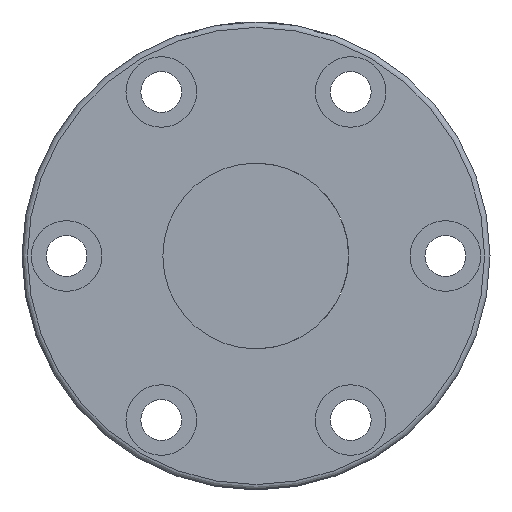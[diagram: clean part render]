
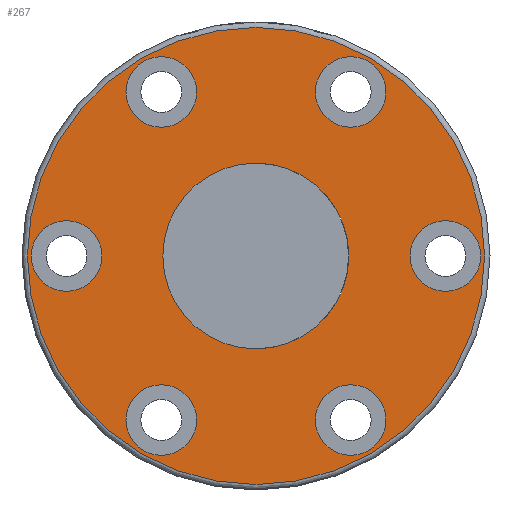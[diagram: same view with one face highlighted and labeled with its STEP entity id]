
A CAD part, front view. The second image highlights one B-rep face of the part: STEP entity #267.
In plain terms, the highlighted planar face has unit normal (0, -1, 0).
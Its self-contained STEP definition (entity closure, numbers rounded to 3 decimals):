
#11 = ORIENTED_EDGE ( 'NONE', *, *, #960, .T. ) ;
#17 = AXIS2_PLACEMENT_3D ( 'NONE', #496, #941, #338 ) ;
#18 = EDGE_CURVE ( 'NONE', #563, #563, #574, .T. ) ;
#30 = DIRECTION ( 'NONE',  ( 0., 1., 0. ) ) ;
#51 = DIRECTION ( 'NONE',  ( 0., 0., 1. ) ) ;
#89 = VERTEX_POINT ( 'NONE', #722 ) ;
#96 = FACE_BOUND ( 'NONE', #933, .T. ) ;
#104 = DIRECTION ( 'NONE',  ( 0., 1., 0. ) ) ;
#106 = CIRCLE ( 'NONE', #977, 4.75 ) ;
#109 = DIRECTION ( 'NONE',  ( 0., 1., 0. ) ) ;
#110 = VERTEX_POINT ( 'NONE', #708 ) ;
#116 = VERTEX_POINT ( 'NONE', #280 ) ;
#128 = AXIS2_PLACEMENT_3D ( 'NONE', #596, #1032, #166 ) ;
#137 = AXIS2_PLACEMENT_3D ( 'NONE', #937, #759, #143 ) ;
#143 = DIRECTION ( 'NONE',  ( 0., 0., 1. ) ) ;
#166 = DIRECTION ( 'NONE',  ( -1., 0., 0. ) ) ;
#184 = FACE_BOUND ( 'NONE', #307, .T. ) ;
#190 = FACE_BOUND ( 'NONE', #661, .T. ) ;
#212 = EDGE_CURVE ( 'NONE', #89, #89, #921, .T. ) ;
#223 = CIRCLE ( 'NONE', #17, 4.75 ) ;
#267 = ADVANCED_FACE ( 'NONE', ( #184, #537, #96, #801, #374, #282, #631, #190 ), #545, .F. ) ;
#280 = CARTESIAN_POINT ( 'NONE',  ( 25.539, -25.461, 4.75 ) ) ;
#282 = FACE_BOUND ( 'NONE', #411, .T. ) ;
#286 = CARTESIAN_POINT ( 'NONE',  ( 12.789, -25.461, -17.334 ) ) ;
#290 = AXIS2_PLACEMENT_3D ( 'NONE', #864, #336, #938 ) ;
#298 = DIRECTION ( 'NONE',  ( 0., 0., 1. ) ) ;
#307 = EDGE_LOOP ( 'NONE', ( #1056 ) ) ;
#322 = EDGE_CURVE ( 'NONE', #633, #633, #223, .T. ) ;
#328 = DIRECTION ( 'NONE',  ( 0., 1., 0. ) ) ;
#336 = DIRECTION ( 'NONE',  ( 0., -1., 0. ) ) ;
#338 = DIRECTION ( 'NONE',  ( 0., 0., 1. ) ) ;
#361 = ORIENTED_EDGE ( 'NONE', *, *, #652, .T. ) ;
#374 = FACE_BOUND ( 'NONE', #376, .T. ) ;
#376 = EDGE_LOOP ( 'NONE', ( #11 ) ) ;
#380 = CARTESIAN_POINT ( 'NONE',  ( 12.789, -25.461, 26.834 ) ) ;
#411 = EDGE_LOOP ( 'NONE', ( #773 ) ) ;
#462 = DIRECTION ( 'NONE',  ( 1., 0., 0. ) ) ;
#467 = CARTESIAN_POINT ( 'NONE',  ( 0.039, -25.461, 0. ) ) ;
#491 = CIRCLE ( 'NONE', #290, 30.767 ) ;
#496 = CARTESIAN_POINT ( 'NONE',  ( -12.711, -25.461, -22.084 ) ) ;
#510 = ORIENTED_EDGE ( 'NONE', *, *, #18, .T. ) ;
#537 = FACE_BOUND ( 'NONE', #833, .T. ) ;
#543 = VERTEX_POINT ( 'NONE', #623 ) ;
#545 = PLANE ( 'NONE',  #627 ) ;
#563 = VERTEX_POINT ( 'NONE', #820 ) ;
#574 = CIRCLE ( 'NONE', #128, 12.5 ) ;
#593 = EDGE_CURVE ( 'NONE', #116, #116, #106, .T. ) ;
#596 = CARTESIAN_POINT ( 'NONE',  ( 0.039, -25.461, 0. ) ) ;
#623 = CARTESIAN_POINT ( 'NONE',  ( 0.039, -25.461, 30.767 ) ) ;
#627 = AXIS2_PLACEMENT_3D ( 'NONE', #467, #104, #462 ) ;
#631 = FACE_OUTER_BOUND ( 'NONE', #778, .T. ) ;
#633 = VERTEX_POINT ( 'NONE', #973 ) ;
#652 = EDGE_CURVE ( 'NONE', #816, #816, #1097, .T. ) ;
#656 = CIRCLE ( 'NONE', #877, 4.75 ) ;
#661 = EDGE_LOOP ( 'NONE', ( #510 ) ) ;
#664 = AXIS2_PLACEMENT_3D ( 'NONE', #989, #30, #719 ) ;
#691 = CIRCLE ( 'NONE', #137, 4.75 ) ;
#708 = CARTESIAN_POINT ( 'NONE',  ( -12.711, -25.461, 26.834 ) ) ;
#719 = DIRECTION ( 'NONE',  ( 0., 0., 1. ) ) ;
#722 = CARTESIAN_POINT ( 'NONE',  ( -25.461, -25.461, 4.75 ) ) ;
#727 = VERTEX_POINT ( 'NONE', #380 ) ;
#759 = DIRECTION ( 'NONE',  ( 0., 1., 0. ) ) ;
#773 = ORIENTED_EDGE ( 'NONE', *, *, #971, .T. ) ;
#778 = EDGE_LOOP ( 'NONE', ( #1003 ) ) ;
#801 = FACE_BOUND ( 'NONE', #1133, .T. ) ;
#815 = DIRECTION ( 'NONE',  ( 0., 1., 0. ) ) ;
#816 = VERTEX_POINT ( 'NONE', #286 ) ;
#820 = CARTESIAN_POINT ( 'NONE',  ( -12.461, -25.461, 0. ) ) ;
#833 = EDGE_LOOP ( 'NONE', ( #1107 ) ) ;
#837 = ORIENTED_EDGE ( 'NONE', *, *, #322, .T. ) ;
#841 = EDGE_CURVE ( 'NONE', #543, #543, #491, .T. ) ;
#864 = CARTESIAN_POINT ( 'NONE',  ( 0.039, -25.461, 0. ) ) ;
#877 = AXIS2_PLACEMENT_3D ( 'NONE', #1110, #328, #51 ) ;
#902 = CARTESIAN_POINT ( 'NONE',  ( 25.539, -25.461, 0. ) ) ;
#921 = CIRCLE ( 'NONE', #664, 4.75 ) ;
#933 = EDGE_LOOP ( 'NONE', ( #361 ) ) ;
#934 = AXIS2_PLACEMENT_3D ( 'NONE', #1082, #109, #298 ) ;
#937 = CARTESIAN_POINT ( 'NONE',  ( 12.789, -25.461, 22.084 ) ) ;
#938 = DIRECTION ( 'NONE',  ( 0., 0., 1. ) ) ;
#941 = DIRECTION ( 'NONE',  ( 0., 1., 0. ) ) ;
#960 = EDGE_CURVE ( 'NONE', #727, #727, #691, .T. ) ;
#971 = EDGE_CURVE ( 'NONE', #110, #110, #656, .T. ) ;
#973 = CARTESIAN_POINT ( 'NONE',  ( -12.711, -25.461, -17.334 ) ) ;
#977 = AXIS2_PLACEMENT_3D ( 'NONE', #902, #815, #1086 ) ;
#989 = CARTESIAN_POINT ( 'NONE',  ( -25.461, -25.461, 0. ) ) ;
#1003 = ORIENTED_EDGE ( 'NONE', *, *, #841, .T. ) ;
#1032 = DIRECTION ( 'NONE',  ( 0., 1., 0. ) ) ;
#1056 = ORIENTED_EDGE ( 'NONE', *, *, #593, .T. ) ;
#1082 = CARTESIAN_POINT ( 'NONE',  ( 12.789, -25.461, -22.084 ) ) ;
#1086 = DIRECTION ( 'NONE',  ( 0., 0., 1. ) ) ;
#1097 = CIRCLE ( 'NONE', #934, 4.75 ) ;
#1107 = ORIENTED_EDGE ( 'NONE', *, *, #212, .T. ) ;
#1110 = CARTESIAN_POINT ( 'NONE',  ( -12.711, -25.461, 22.084 ) ) ;
#1133 = EDGE_LOOP ( 'NONE', ( #837 ) ) ;
